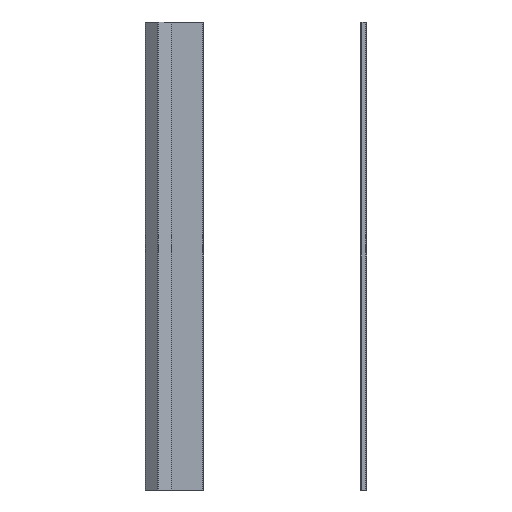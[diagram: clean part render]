
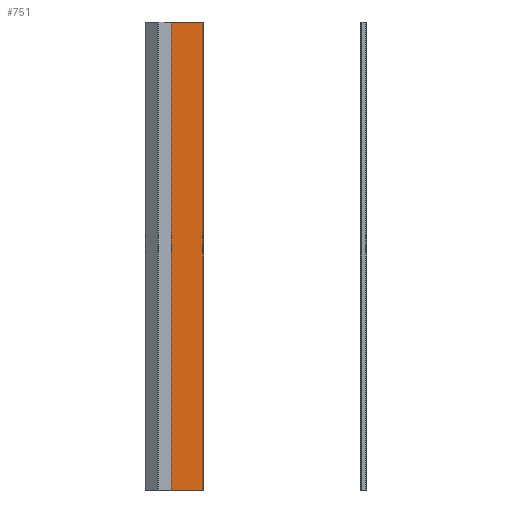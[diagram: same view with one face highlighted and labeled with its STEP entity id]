
A CAD part, left-side view. The second image highlights one B-rep face of the part: STEP entity #751.
In plain terms, the highlighted planar face has unit normal (-1, 0, 0) as drawn and (0, 0, -1) by its records, which use the part's own axes.
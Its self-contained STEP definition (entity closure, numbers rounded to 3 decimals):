
#122 = VERTEX_POINT ( 'NONE', #379 ) ;
#244 = VERTEX_POINT ( 'NONE', #429 ) ;
#261 = CARTESIAN_POINT ( 'NONE',  ( 2., 1454., -2. ) ) ;
#379 = CARTESIAN_POINT ( 'NONE',  ( 3., 0., -2. ) ) ;
#390 = EDGE_CURVE ( 'NONE', #1667, #122, #1775, .T. ) ;
#425 = ORIENTED_EDGE ( 'NONE', *, *, #1309, .F. ) ;
#429 = CARTESIAN_POINT ( 'NONE',  ( 100.252, 1454., -2. ) ) ;
#584 = VECTOR ( 'NONE', #836, 1000. ) ;
#718 = LINE ( 'NONE', #854, #2251 ) ;
#751 = ADVANCED_FACE ( 'NONE', ( #2238 ), #1935, .F. ) ;
#836 = DIRECTION ( 'NONE',  ( -1., 0., 0. ) ) ;
#854 = CARTESIAN_POINT ( 'NONE',  ( 100.252, 0., -2. ) ) ;
#1275 = VECTOR ( 'NONE', #1452, 1000. ) ;
#1309 = EDGE_CURVE ( 'NONE', #244, #2396, #1717, .T. ) ;
#1313 = EDGE_CURVE ( 'NONE', #244, #1667, #718, .T. ) ;
#1328 = AXIS2_PLACEMENT_3D ( 'NONE', #2514, #2127, #1423 ) ;
#1363 = CARTESIAN_POINT ( 'NONE',  ( 100.252, 0., -2. ) ) ;
#1395 = ORIENTED_EDGE ( 'NONE', *, *, #1614, .T. ) ;
#1410 = ORIENTED_EDGE ( 'NONE', *, *, #390, .T. ) ;
#1423 = DIRECTION ( 'NONE',  ( 1., 0., 0. ) ) ;
#1452 = DIRECTION ( 'NONE',  ( -1., 0., 0. ) ) ;
#1527 = CARTESIAN_POINT ( 'NONE',  ( 3., 1454., -2. ) ) ;
#1614 = EDGE_CURVE ( 'NONE', #122, #2396, #2393, .T. ) ;
#1634 = CARTESIAN_POINT ( 'NONE',  ( 2., 0., -2. ) ) ;
#1667 = VERTEX_POINT ( 'NONE', #1363 ) ;
#1717 = LINE ( 'NONE', #261, #1275 ) ;
#1775 = LINE ( 'NONE', #1634, #584 ) ;
#1776 = CARTESIAN_POINT ( 'NONE',  ( 3., 1454., -2. ) ) ;
#1813 = VECTOR ( 'NONE', #2116, 1000. ) ;
#1853 = EDGE_LOOP ( 'NONE', ( #1410, #1395, #425, #2113 ) ) ;
#1935 = PLANE ( 'NONE',  #1328 ) ;
#2053 = DIRECTION ( 'NONE',  ( 0., -1., 0. ) ) ;
#2113 = ORIENTED_EDGE ( 'NONE', *, *, #1313, .T. ) ;
#2116 = DIRECTION ( 'NONE',  ( 0., 1., 0. ) ) ;
#2127 = DIRECTION ( 'NONE',  ( 0., 0., 1. ) ) ;
#2238 = FACE_OUTER_BOUND ( 'NONE', #1853, .T. ) ;
#2251 = VECTOR ( 'NONE', #2053, 1000. ) ;
#2393 = LINE ( 'NONE', #1527, #1813 ) ;
#2396 = VERTEX_POINT ( 'NONE', #1776 ) ;
#2514 = CARTESIAN_POINT ( 'NONE',  ( 2., 1454., -2. ) ) ;
